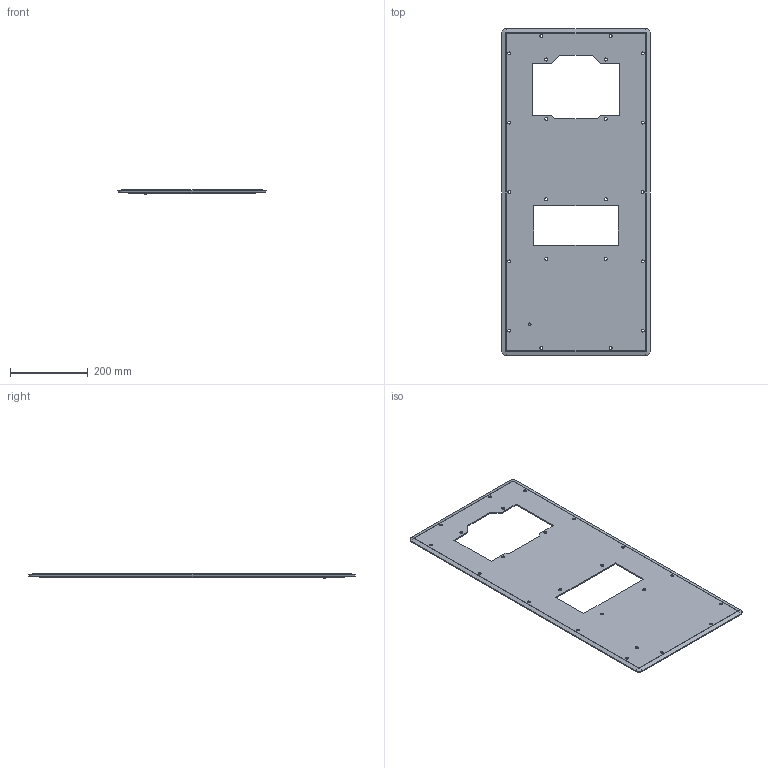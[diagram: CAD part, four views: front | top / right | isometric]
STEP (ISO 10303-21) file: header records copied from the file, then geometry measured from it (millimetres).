
FILE_DESCRIPTION (( 'STEP AP214' ), '1' );
FILE_NAME ('egph29.STEP', '2007-06-27T12:32:34', ( '' ), ( '' ), 'SwSTEP 2.0', 'SolidWorks 2007', '' );
FILE_SCHEMA (( 'AUTOMOTIVE_DESIGN' ));
Length unit declared in the file: inch
Products named in the file (4): GlandPlateFIP; plate_gland_EGPHX2918 Heatexchanger Cutout; 99411940_PEM FHS-M6-12; egph29
Assembly tree (3 placements, depth 2):
  egph29
    GlandPlateFIP
    plate_gland_EGPHX2918 Heatexchanger Cutout
    99411940_PEM FHS-M6-12
Bounding box: 381 x 838.2 x 12 mm (x, y, z)
Volume: 945559.1 mm3; surface area: 598288.8 mm2
Topology: 3 solids, 3 shells, 246 faces, 640 edges, 404 vertices
Faces by surface type: plane 99, cylinder 90, torus 30, cone 27
Entity records: 7927 total; most frequent: CARTESIAN_POINT 1440, DIRECTION 1406, ORIENTED_EDGE 1280, EDGE_CURVE 640, AXIS2_PLACEMENT_3D 538, VERTEX_POINT 404, VECTOR 330, LINE 330
